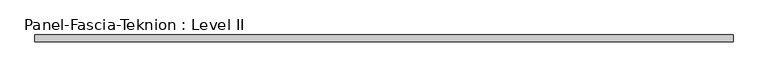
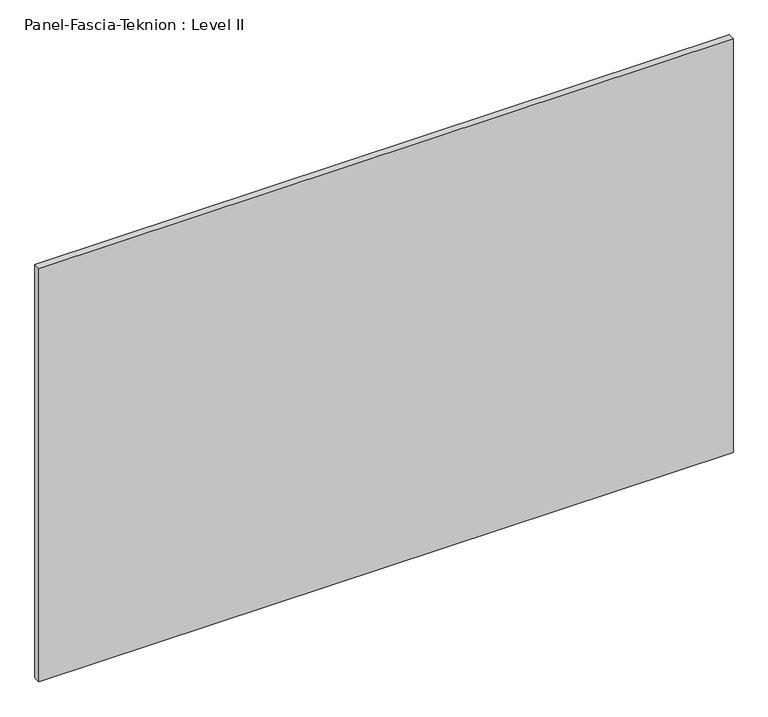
"""IFC4 building model written with IfcOpenShell, lengths in millimetres: proxy geometry, Panel-Fascia-Teknion : Level II."""

from ifc_helpers import new_model, si_unit, frame, origin, place, context, project, spatial, polyline, outline, extrude, source, transform, mapped, element, save


def panel_fascia_teknion_level_ii_f4fefb58(model_context):
    return source(origin(), model_context, "Body", "SweptSolid", [
        extrude(outline(polyline([(962.6147563, -9.525), (-962.6147562, -9.525), (-962.6147562, 9.525), (962.6147563, 9.525), (962.6147563, -9.525)])), frame((0.0, 0.0, 3.175), z_axis=(0.0, 0.0, 1.0), x_axis=(1.0, 0.0, 0.0)), (0.0, 0.0, 1.0), 1212.85),
    ])


if __name__ == "__main__":
    model = new_model("IFC4")
    model_context = context("Model", 3, world=origin())
    ifc_project = project(units=[si_unit("LENGTHUNIT", "METRE", prefix="MILLI")], contexts=[model_context])
    site = spatial("IfcSite", under=ifc_project)
    building = spatial("IfcBuilding", under=site)
    placement = place(None, origin())
    panel_fascia_teknion_level_ii_shape = panel_fascia_teknion_level_ii_f4fefb58(model_context)
    element("IfcBuildingElementProxy", 1, Name="Panel-Fascia-Teknion : Level II", ObjectType="Panel-Fascia-Teknion : Level II", at=placement, inside=building, context=model_context, shape_type="MappedRepresentation", body=[
        mapped(panel_fascia_teknion_level_ii_shape, transform((0.0, 0.0, 0.0), x_axis=(1.0, 0.0, 0.0), y_axis=(0.0, 1.0, 0.0), z_axis=(0.0, 0.0, 1.0))),
    ])
    save(model, "model.ifc")
